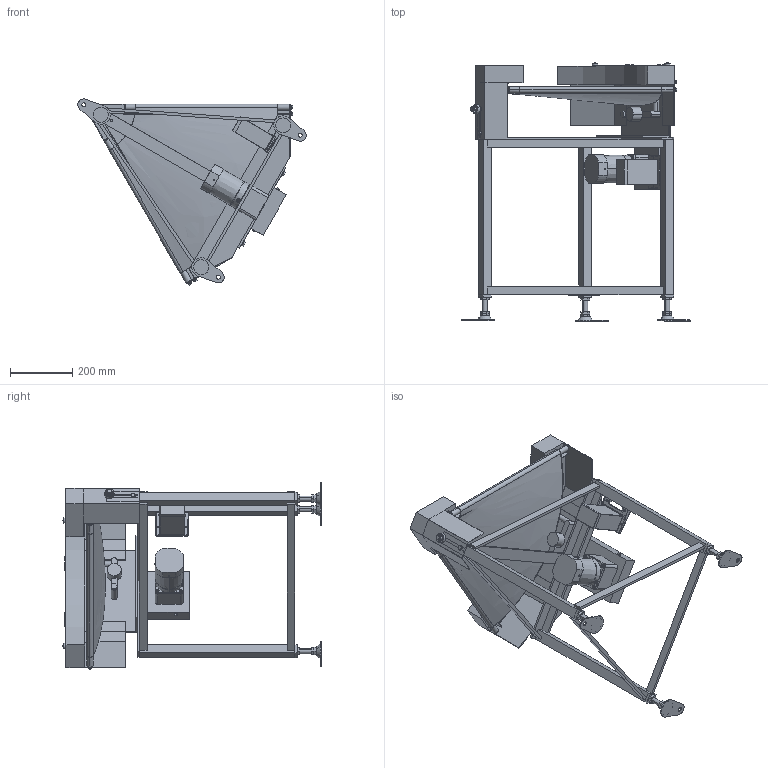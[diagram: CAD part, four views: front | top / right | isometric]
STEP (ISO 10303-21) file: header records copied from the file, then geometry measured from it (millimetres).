
FILE_DESCRIPTION (( 'STEP AP214' ), '1' );
FILE_NAME ('MMBC3-UD-309-400-60°-L-IV-120.STEP', '2023-01-23T01:41:00', ( '' ), ( '' ), 'SwSTEP 2.0', 'SolidWorks 2017', '' );
FILE_SCHEMA (( 'AUTOMOTIVE_DESIGN' ));
Length unit declared in the file: millimetre
Products named in the file (1): MMBC3-UD-309-400-60°-L-IV-120
Bounding box: 731.73 x 827.92 x 596.87 mm (x, y, z)
Volume: 13466571.4 mm3; surface area: 2801226.6 mm2
Topology: 36 solids, 41 shells, 1233 faces, 2961 edges, 1898 vertices
Faces by surface type: plane 774, cylinder 318, bspline 59, cone 54, torus 18, sphere 10
Entity records: 43673 total; most frequent: CARTESIAN_POINT 14537, ORIENTED_EDGE 5898, DIRECTION 5886, EDGE_CURVE 2949, AXIS2_PLACEMENT_3D 2008, VERTEX_POINT 1898, VECTOR 1870, LINE 1870
